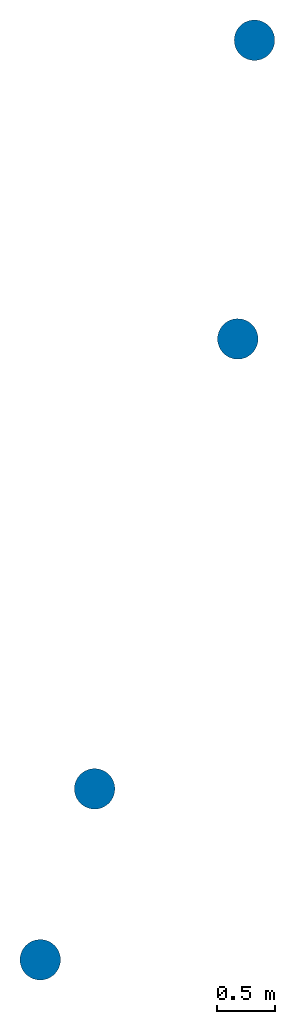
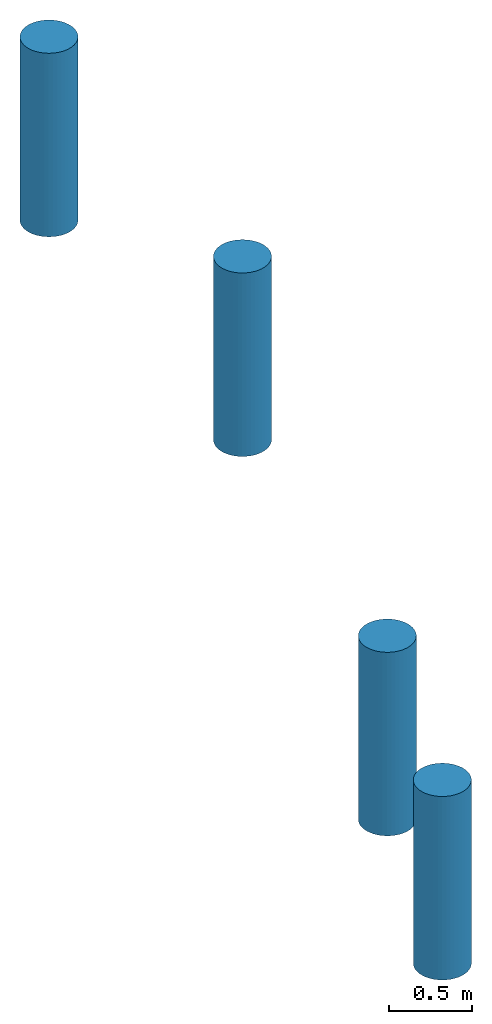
# One storey: 4 columns.
"""IFC2X3 building model written with IfcOpenShell, lengths in millimetres."""

from ifc_helpers import new_model, entity, si_unit, converted_unit, derived_unit, direction, frame, frame_2d, origin, origin_with_axes, place, context, subcontext, project, spatial, circle, extrude, source, transform, mapped, material, type_object, element, save


model = new_model("IFC2X3")

# Units and contexts
plan_context = context("Plan", 3, precision=1e-05, world=origin_with_axes())
model_context = context("Model", 3, precision=0.01, world=origin(), true_north=direction((6.12323399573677e-17, 1.0)))
body_context = subcontext(model_context, "Body", "Model", "MODEL_VIEW")
ifc_project = project(units=[converted_unit("PLANEANGLEUNIT", "DEGREE", entity("IfcPositiveLengthMeasure", 0.0174532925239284), si_unit("PLANEANGLEUNIT", "RADIAN"), dimensions=[0, 0, 0, 0, 0, 0, 0]), si_unit("AREAUNIT", "SQUARE_METRE"), si_unit("LENGTHUNIT", "METRE", prefix="MILLI"), si_unit("MASSUNIT", "GRAM", prefix="KILO"), si_unit("POWERUNIT", "WATT"), si_unit("PRESSUREUNIT", "PASCAL", prefix="KILO"), si_unit("FORCEUNIT", "NEWTON", prefix="KILO"), si_unit("ELECTRICVOLTAGEUNIT", "VOLT"), si_unit("ELECTRICCURRENTUNIT", "AMPERE"), si_unit("THERMODYNAMICTEMPERATUREUNIT", "DEGREE_CELSIUS"), si_unit("TIMEUNIT", "SECOND"), si_unit("VOLUMEUNIT", "CUBIC_METRE"), derived_unit("LINEARVELOCITYUNIT", [(si_unit("LENGTHUNIT", "METRE"), 1), (si_unit("TIMEUNIT", "SECOND"), -1)]), derived_unit("VOLUMETRICFLOWRATEUNIT", [(si_unit("VOLUMEUNIT", "CUBIC_METRE"), 1), (si_unit("TIMEUNIT", "SECOND"), -1)]), derived_unit("THERMALTRANSMITTANCEUNIT", [(si_unit("POWERUNIT", "WATT"), 1), (si_unit("THERMODYNAMICTEMPERATUREUNIT", "KELVIN"), -1), (si_unit("AREAUNIT", "SQUARE_METRE"), -1)]), derived_unit("SOUNDPRESSUREUNIT", [(si_unit("PRESSUREUNIT", "PASCAL"), 1)])], contexts=[model_context, plan_context])

# Site, building, storey
site_placement = place(None, frame((0.0, 0.0, 0.0), z_axis=(0.0, 0.0, 1.0), x_axis=(0.214788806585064, -0.976660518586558, 0.0)))
site = spatial("IfcSite", under=ifc_project, at=site_placement, Name="Default", CompositionType="ELEMENT")
building_placement = place(site_placement, origin_with_axes())
building = spatial("IfcBuilding", under=site, at=building_placement, CompositionType="ELEMENT")
storey_placement = place(building_placement, frame((0.0, 0.0, 5100.0), z_axis=(0.0, 0.0, 1.0), x_axis=(1.0, 0.0, 0.0)))
storey = spatial("IfcBuildingStorey", under=building, at=storey_placement, Name="PLAN 01. ETG", CompositionType="ELEMENT", Elevation=5100.0)

# Columns
ifc_material = material(Name="NO_Betong - Prefab")
column_type = type_object("IfcColumnType", Name="NO_S-Column_Precast_Round:Pullert ø350", PredefinedType="COLUMN", material=ifc_material)
shared_shape = source(origin(), body_context, "Body", "SweptSolid", [
    extrude(circle(Radius=174.999999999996, at=frame_2d((-1.69197988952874e-14, -2.91882289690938e-13), x_axis=(1.0, 0.0))), frame((0.0, 0.0, 4450.0)), (0.0, 0.0, 1.0), 1350.0),
])
for number, where, z_axis, x_axis in (
    (1, (-183042.949004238, 371118.592121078, -5100.0), (0.0, 0.0, 1.0), (1.0, 0.0, 0.0)),
    (2, (-177021.134843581, 368380.113149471, -5100.0), (0.0, 0.0, 1.0), (1.0, 0.0, 0.0)),
    (3, (-175679.50395286, 367603.887310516, -5100.0), (0.0, 0.0, 1.0), (1.0, 0.0, 0.0)),
    (4, (-180552.653575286, 370423.339873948, -5100.0), (0.0, 0.0, 1.0), (1.0, 0.0, 0.0)),
):
    element("IfcColumn", number, at=place(storey_placement, frame(where, z_axis=z_axis, x_axis=x_axis)), inside=storey, type_object=column_type, material=ifc_material, Name="NO_S-Column_Precast_Round:Pullert ø350", ObjectType="NO_S-Column_Precast_Round:Pullert ø350", context=body_context, shape_type="MappedRepresentation", body=[
        mapped(shared_shape, transform((0.0, 0.0, 0.0), scale=1.0)),
    ])

save(model, "model.ifc")
